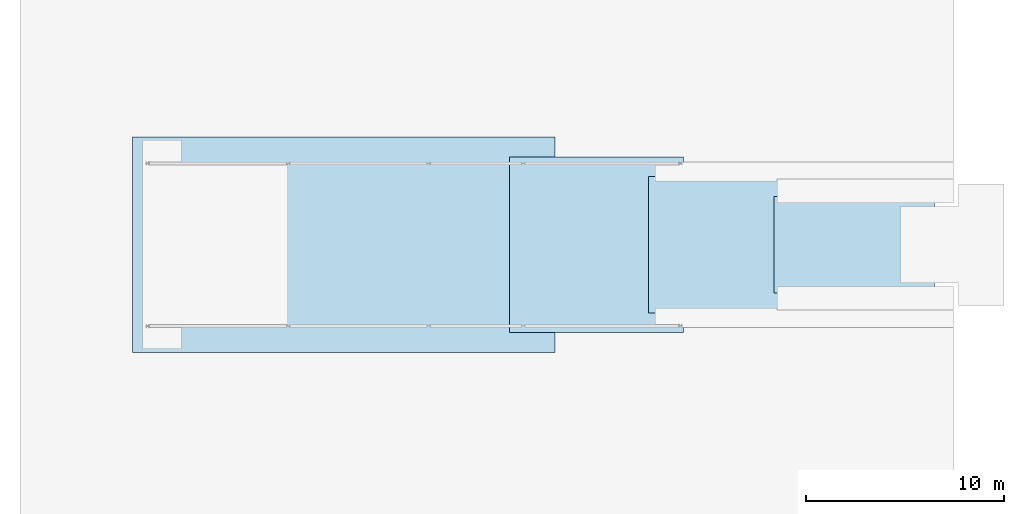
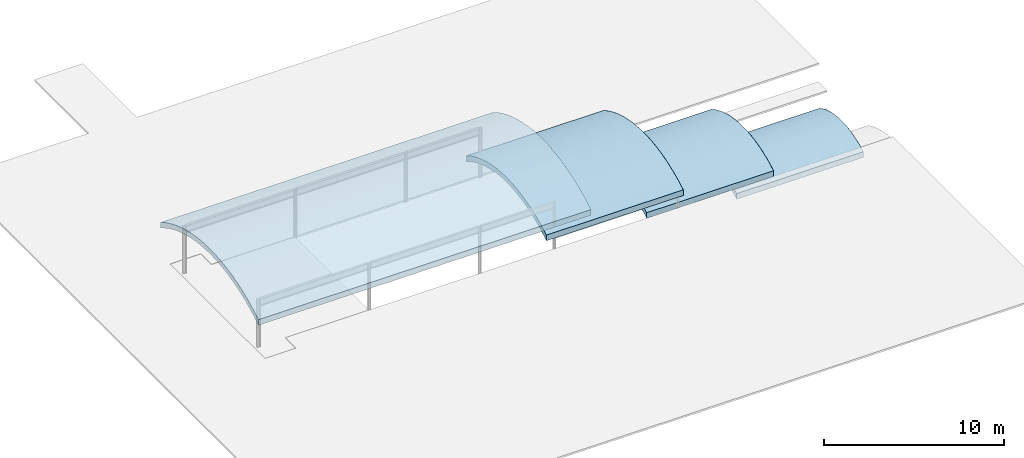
# One storey, part 4 of 5: 4 roofs.
"""IFC2X3 building model written with IfcOpenShell, lengths in metres."""

import ifcopenshell
import ifcopenshell.guid

model = None  # the IFC model being written
_history = None  # IfcOwnerHistory: only IFC2X3 demands one
_inside = {}  # id of a spatial element -> (the spatial element, [elements in it])
_under = {}  # id of a project, library or spatial element -> (it, [spatial elements below it])
_declared = {}  # id of a project -> (the project, [libraries it declares])
_typed = {}  # id of a type object -> (the type object, [elements of that type])
_made_of = {}  # id of a material, layer set ... -> (it, [elements and type objects made of it])


def new_model(schema):
    """Start an empty IFC model of exactly this schema.

    Asked for "IFC4X3", IfcOpenShell would pick the latest addendum, in which some entities
    have other attributes; the version numbers below select the first issue.
    IFC2X3 requires an IfcOwnerHistory on every rooted entity: one is made here for all.
    """
    global model, _history
    if schema == "IFC4X3":
        model = ifcopenshell.file(schema_version=(4, 3, 0, 0))
    else:
        model = ifcopenshell.file(schema=schema)
    _inside.clear()
    _under.clear()
    _declared.clear()
    _typed.clear()
    _made_of.clear()
    _history = None
    if model.schema == "IFC2X3":
        org = make("IfcOrganization", Name="unknown")
        user = make(
            "IfcPersonAndOrganization",
            ThePerson=make("IfcPerson", FamilyName="unknown"),
            TheOrganization=org,
        )
        app = make(
            "IfcApplication",
            ApplicationDeveloper=org,
            Version="unknown",
            ApplicationFullName="unknown",
            ApplicationIdentifier="unknown",
        )
        _history = make(
            "IfcOwnerHistory",
            OwningUser=user,
            OwningApplication=app,
            ChangeAction="ADDED",
            CreationDate=0,
        )
    return model


def make(cls, **values):
    """One entity of the class cls with the attributes given. An attribute that is None is left unset."""
    return model.create_entity(
        cls, **{name: value for name, value in values.items() if value is not None}
    )


def entity(cls, *values):
    """Any entity or typed value of the class cls, its attributes in the order of the schema. None: left unset."""
    e = model.create_entity(cls)
    for i, value in enumerate(values):
        if value is not None:
            e[i] = value
    return e


def rooted(cls, **values):
    """An entity with a GlobalId (a new one), such as an element, a storey or a relation."""
    return make(cls, GlobalId=ifcopenshell.guid.new(), OwnerHistory=_history, **values)


def si_unit(unit_type, name, prefix=None):
    """IfcSIUnit, for example si_unit("LENGTHUNIT", "METRE", prefix="MILLI")."""
    return make("IfcSIUnit", UnitType=unit_type, Prefix=prefix, Name=name)


def converted_unit(unit_type, name, factor, base, dimensions=None, offset=None):
    """IfcConversionBasedUnit, such as the inch: factor (a typed value) times the base unit."""
    return make(
        "IfcConversionBasedUnit"
        if offset is None
        else "IfcConversionBasedUnitWithOffset",
        ConversionOffset=offset,
        Dimensions=None
        if dimensions is None
        else entity("IfcDimensionalExponents", *dimensions),
        UnitType=unit_type,
        Name=name,
        ConversionFactor=make(
            "IfcMeasureWithUnit", ValueComponent=factor, UnitComponent=base
        ),
    )


def assignment(units):
    """IfcUnitAssignment: the units of a project."""
    return None if units is None else make("IfcUnitAssignment", Units=units)


def point(xyz):
    """IfcCartesianPoint."""
    return None if xyz is None else make("IfcCartesianPoint", Coordinates=xyz)


def direction(xyz):
    """IfcDirection."""
    return None if xyz is None else make("IfcDirection", DirectionRatios=xyz)


def frame(location, z_axis=None, x_axis=None):
    """IfcAxis2Placement3D, a coordinate frame: its origin and axes. An axis left out is left unset."""
    return make(
        "IfcAxis2Placement3D",
        Location=point(location),
        Axis=direction(z_axis),
        RefDirection=direction(x_axis),
    )


def origin():
    """The frame at (0, 0, 0) with its axes left unset."""
    return frame((0.0, 0.0, 0.0))


def place(relative_to, where):
    """IfcLocalPlacement: puts the frame where relative to a parent placement (None: the world)."""
    return make(
        "IfcLocalPlacement", PlacementRelTo=relative_to, RelativePlacement=where
    )


def context(
    kind, dimensions, precision=None, world=None, true_north=None, identifier=None
):
    """IfcGeometricRepresentationContext, for example the 3D "Model" context."""
    return make(
        "IfcGeometricRepresentationContext",
        ContextIdentifier=identifier,
        ContextType=kind,
        CoordinateSpaceDimension=dimensions,
        Precision=precision,
        WorldCoordinateSystem=world,
        TrueNorth=true_north,
    )


def project(units=None, contexts=None):
    """IfcProject with its units and contexts."""
    return rooted(
        "IfcProject",
        Name="project",
        RepresentationContexts=contexts,
        UnitsInContext=assignment(units),
    )


def spatial(cls, under=None, at=None, **own):
    """A site, building, storey or space (cls), placed at a placement, below another one or the project."""
    s = rooted(cls, ObjectPlacement=at, **own)
    if under is not None:
        _under.setdefault(under.id(), (under, []))[1].append(s)
    return s


def faces_of(points, faces, orient=None, outer=None):
    """IfcFace entities. A face is a list of loops; a loop is a list of indices into points, from 0.

    orient and outer hold one flag for each loop. By default every Orientation is true, the
    first loop of a face is its IfcFaceOuterBound and the others are IfcFaceBound.
    """
    made = []
    for i, loops in enumerate(faces):
        bounds = []
        for j, loop in enumerate(loops):
            is_outer = j == 0 if outer is None else outer[i][j]
            bounds.append(
                make(
                    "IfcFaceOuterBound" if is_outer else "IfcFaceBound",
                    Bound=make("IfcPolyLoop", Polygon=[points[k] for k in loop]),
                    Orientation=True if orient is None else orient[i][j],
                )
            )
        made.append(make("IfcFace", Bounds=bounds))
    return made


def face_set(faces, orient=None, outer=None):
    """The faces of one IfcConnectedFaceSet. surface_model builds it on its shared points."""
    return ("IfcConnectedFaceSet", faces, orient, outer)


def surface_model(cls, points, shells):
    """IfcFaceBasedSurfaceModel or IfcShellBasedSurfaceModel (cls): surfaces that need not close."""
    shared = [point(p) for p in points]
    made = [make(c, CfsFaces=faces_of(shared, fs, o, b)) for c, fs, o, b in shells]
    if cls == "IfcFaceBasedSurfaceModel":
        return make(cls, FbsmFaces=made)
    return make(cls, SbsmBoundary=made)


def shape(context_of_items, identifier, shape_type, items):
    """IfcShapeRepresentation: the items that make up one representation, for example the "Body"."""
    return make(
        "IfcShapeRepresentation",
        ContextOfItems=context_of_items,
        RepresentationIdentifier=identifier,
        RepresentationType=shape_type,
        Items=items,
    )


def material(Name=None, Category=None):
    """IfcMaterial."""
    return make("IfcMaterial", Name=Name, Category=Category)


def layer(
    of_material, thickness, ventilated=None, Name=None, Category=None, Priority=None
):
    """IfcMaterialLayer: one layer of a wall or slab, of a material (None: an air gap)."""
    return make(
        "IfcMaterialLayer",
        Material=of_material,
        LayerThickness=thickness,
        IsVentilated=ventilated,
        Name=Name,
        Category=Category,
        Priority=Priority,
    )


def layer_set(layers, Name=None):
    """IfcMaterialLayerSet."""
    return make("IfcMaterialLayerSet", MaterialLayers=layers, LayerSetName=Name)


def layer_usage(for_layer_set, set_direction, sense, offset, extent=None):
    """IfcMaterialLayerSetUsage: how a layer set lies in its element."""
    return make(
        "IfcMaterialLayerSetUsage",
        ForLayerSet=for_layer_set,
        LayerSetDirection=set_direction,
        DirectionSense=sense,
        OffsetFromReferenceLine=offset,
        ReferenceExtent=extent,
    )


def made_of(thing, what):
    """Note that an element or type object is made of a material, layer set ...; save() writes the relation."""
    if what is not None:
        _made_of.setdefault(what.id(), (what, []))[1].append(thing)
    return thing


def element(
    cls,
    number,
    at=None,
    inside=None,
    cuts=None,
    type_object=None,
    material=None,
    context=None,
    identifier="Body",
    shape_type=None,
    held_by="IfcProductDefinitionShape",
    body=None,
    shapes=None,
    **own,
):
    """One element of the class cls, such as IfcWall. Its Tag is "e" and its number.

    at: its placement. inside: the storey or other place that contains it. cuts: it is an
    opening in that element (IfcRelVoidsElement). A single representation is given by context,
    identifier, shape_type and body (its items); several are given by shapes. held_by: the class
    of the entity that holds the representations. save() writes the other relations.
    """
    e = rooted(cls, Tag="e%d" % number, ObjectPlacement=at, **own)
    if body is not None:
        shapes = [shape(context, identifier, shape_type, body)]
    if shapes is not None:
        e.Representation = make(held_by, Representations=shapes)
    if inside is not None:
        _inside.setdefault(inside.id(), (inside, []))[1].append(e)
    if cuts is not None:
        rooted(
            "IfcRelVoidsElement", RelatingBuildingElement=cuts, RelatedOpeningElement=e
        )
    if type_object is not None:
        _typed.setdefault(type_object.id(), (type_object, []))[1].append(e)
    return made_of(e, material)


def aggregate(whole, parts):
    """IfcRelAggregates: a whole, such as a stair, and the parts it consists of."""
    return rooted("IfcRelAggregates", RelatingObject=whole, RelatedObjects=parts)


def save(model, path):
    """Write the relations noted so far, then the file.

    IfcRelAggregates (storeys below a building ...), IfcRelContainedInSpatialStructure (elements
    in a storey), IfcRelDefinesByType, IfcRelAssociatesMaterial and IfcRelDeclares: one each for
    every whole, place, type object, material and project.
    """
    for whole, parts in _under.values():
        aggregate(whole, parts)
    for where, things in _inside.values():
        rooted(
            "IfcRelContainedInSpatialStructure",
            RelatedElements=things,
            RelatingStructure=where,
        )
    for kind, things in _typed.values():
        rooted("IfcRelDefinesByType", RelatedObjects=things, RelatingType=kind)
    for what, things in _made_of.values():
        rooted("IfcRelAssociatesMaterial", RelatedObjects=things, RelatingMaterial=what)
    for by, libraries in _declared.values():
        rooted("IfcRelDeclares", RelatingContext=by, RelatedDefinitions=libraries)
    model.write(path)


model = new_model("IFC2X3")

# Units and contexts
model_context = context("Model", 3, precision=1e-09, world=origin())
plan_context = context("Plan", 3, precision=1e-09, world=origin())
ifc_project = project(units=[si_unit("LENGTHUNIT", "METRE"), si_unit("AREAUNIT", "SQUARE_METRE"), si_unit("VOLUMEUNIT", "CUBIC_METRE"), converted_unit("PLANEANGLEUNIT", "DEGREE", entity("IfcRatioMeasure", 0.01745329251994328), si_unit("PLANEANGLEUNIT", "RADIAN"), dimensions=[0, 0, 0, 0, 0, 0, 0]), si_unit("TIMEUNIT", "SECOND")], contexts=[model_context, plan_context])

# Site, building, storey
site_placement = place(None, origin())
site = spatial("IfcSite", under=ifc_project, at=site_placement, Name="Default", CompositionType="ELEMENT")
building_placement = place(site_placement, origin())
building = spatial("IfcBuilding", under=site, at=building_placement, CompositionType="ELEMENT")
storey_placement = place(building_placement, frame((0.0, 0.0, 9.25000000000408)))
storey = spatial("IfcBuildingStorey", under=building, at=storey_placement, Name="Roof - Main", CompositionType="ELEMENT", Elevation=9.25000000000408)

# Roofs
ifc_material_1 = material(Name="Roofing - Metal")
ifc_layer_1 = layer(ifc_material_1, 0.006)
ifc_material_2 = material(Name="Metal - Decking")
ifc_layer_2 = layer(ifc_material_2, 0.038)
ifc_material_3 = material(Name="Structure - Steel Bar Joist Layer")
ifc_layer_3 = layer(ifc_material_3, 0.286)
ifc_layer_set = layer_set([ifc_layer_1, ifc_layer_2, ifc_layer_3], Name="Basic Roof:Standing Seam Metal Roof")
ifc_layer_usage = layer_usage(ifc_layer_set, "AXIS3", "NEGATIVE", 0.0)
roof_1_placement = place(storey_placement, frame((-8.965000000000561, 29.24857020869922, -1.990786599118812)))
element("IfcRoof", 1, at=roof_1_placement, inside=storey, material=ifc_layer_usage, Name="Basic Roof:Standing Seam Metal Roof", ObjectType="Basic Roof:Standing Seam Metal Roof", ShapeType="NOTDEFINED", context=model_context, shape_type="SurfaceModel", body=[
    surface_model("IfcFaceBasedSurfaceModel", [(8.150579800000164, 4.881363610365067, 0.3848994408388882), (8.150579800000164, 4.666968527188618, 0.4990496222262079), (8.150579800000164, 4.447247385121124, 0.6025780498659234), (8.150579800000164, 4.222726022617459, 0.6952369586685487), (8.150579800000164, 3.993941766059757, 0.7768045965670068), (8.150579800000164, 3.761442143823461, 0.8470857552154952), (8.150579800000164, 3.525783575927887, 0.9059122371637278), (8.150579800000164, 3.287530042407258, 0.9531432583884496), (8.150579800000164, 3.047251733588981, 0.9886657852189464), (8.150579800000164, 2.805523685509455, 1.012394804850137), (8.150579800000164, 2.56292440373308, 1.024273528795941), (8.150579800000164, 2.320034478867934, 1.024273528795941), (8.150579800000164, 2.077435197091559, 1.012394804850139), (8.150579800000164, 1.835707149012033, 0.9886657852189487), (8.150579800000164, 1.595428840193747, 0.9531432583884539), (8.150579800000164, 1.357175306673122, 0.9059122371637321), (8.150579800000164, 1.121516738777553, 0.8470857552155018), (8.150579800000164, 0.8890171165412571, 0.7768045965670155), (8.150579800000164, 0.660232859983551, 0.6952369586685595), (8.150579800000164, 0.4357114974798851, 0.6025780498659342), (8.150579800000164, 0.2159903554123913, 0.4990496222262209), (8.150579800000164, 0.001595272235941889, 0.3848994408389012), (8.150579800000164, 0.0015952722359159, 0.0015952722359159), (8.150579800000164, 0.2032149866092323, 0.1195023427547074), (8.150579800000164, 0.4105183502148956, 0.2271030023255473), (8.150579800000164, 0.6229789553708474, 0.3241240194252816), (8.150579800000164, 0.8400572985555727, 0.4103190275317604), (8.150579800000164, 1.061202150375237, 0.4854691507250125), (8.150579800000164, 1.28585195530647, 0.5493835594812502), (8.150579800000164, 1.51343625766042, 0.6018999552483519), (8.150579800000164, 1.743377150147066, 0.6428849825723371), (8.150579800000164, 1.975090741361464, 0.6722345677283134), (8.150579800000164, 2.207988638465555, 0.6898741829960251), (8.150579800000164, 2.441479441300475, 0.6957590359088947), (8.150579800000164, 2.674970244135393, 0.6898741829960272), (8.150579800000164, 2.907868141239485, 0.6722345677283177), (8.150579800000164, 3.139581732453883, 0.6428849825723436), (8.150579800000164, 3.369522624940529, 0.6018999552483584), (8.150579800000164, 3.597106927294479, 0.5493835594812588), (8.150579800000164, 3.821756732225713, 0.4854691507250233), (8.150579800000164, 4.042901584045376, 0.4103190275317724), (8.150579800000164, 4.259979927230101, 0.3241240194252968), (8.150579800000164, 4.472440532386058, 0.2271030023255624), (8.150579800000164, 4.679743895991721, 0.1195023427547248), (8.150579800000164, 4.881363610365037, 0.001595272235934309), (0.0, 4.881363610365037, 0.3848994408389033), (0.0, 4.666968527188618, 0.4990496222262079), (0.0, 4.447247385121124, 0.6025780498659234), (0.0, 4.222726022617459, 0.6952369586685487), (0.0, 3.993941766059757, 0.7768045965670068), (0.0, 3.761442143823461, 0.8470857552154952), (0.0, 3.525783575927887, 0.9059122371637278), (0.0, 3.287530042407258, 0.9531432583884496), (0.0, 3.047251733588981, 0.9886657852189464), (0.0, 2.805523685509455, 1.012394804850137), (0.0, 2.56292440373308, 1.024273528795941), (0.0, 2.320034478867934, 1.024273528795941), (0.0, 2.077435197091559, 1.012394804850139), (0.0, 1.835707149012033, 0.9886657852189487), (0.0, 1.595428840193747, 0.9531432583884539), (0.0, 1.357175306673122, 0.9059122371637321), (0.0, 1.121516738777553, 0.8470857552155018), (0.0, 0.8890171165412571, 0.7768045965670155), (0.0, 0.660232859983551, 0.6952369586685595), (0.0, 0.4357114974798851, 0.6025780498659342), (0.0, 0.2159903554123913, 0.4990496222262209), (0.0, 0.0015952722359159, 0.384899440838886), (0.0, 0.0015952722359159, 0.001595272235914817), (0.0, 0.2032149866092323, 0.1195023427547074), (0.0, 0.4105183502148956, 0.2271030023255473), (0.0, 0.6229789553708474, 0.3241240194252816), (0.0, 0.8400572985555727, 0.4103190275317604), (0.0, 1.061202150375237, 0.4854691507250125), (0.0, 1.28585195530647, 0.5493835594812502), (0.0, 1.51343625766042, 0.6018999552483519), (0.0, 1.743377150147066, 0.6428849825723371), (0.0, 1.975090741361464, 0.6722345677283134), (0.0, 2.207988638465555, 0.6898741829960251), (0.0, 2.441479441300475, 0.6957590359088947), (0.0, 2.674970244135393, 0.6898741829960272), (0.0, 2.907868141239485, 0.6722345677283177), (0.0, 3.139581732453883, 0.6428849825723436), (0.0, 3.369522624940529, 0.6018999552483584), (0.0, 3.597106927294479, 0.5493835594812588), (0.0, 3.821756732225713, 0.4854691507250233), (0.0, 4.042901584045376, 0.4103190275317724), (0.0, 4.259979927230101, 0.3241240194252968), (0.0, 4.472440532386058, 0.2271030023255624), (0.0, 4.679743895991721, 0.1195023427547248), (0.0, 4.881363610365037, 0.001595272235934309)], [face_set([[[0, 1, 2, 3, 4, 5, 6, 7, 8, 9, 10, 11, 12, 13, 14, 15, 16, 17, 18, 19, 20, 21, 22, 23, 24, 25, 26, 27, 28, 29, 30, 31, 32, 33, 34, 35, 36, 37, 38, 39, 40, 41, 42, 43, 44]], [[45, 46, 47, 48, 49, 50, 51, 52, 53, 54, 55, 56, 57, 58, 59, 60, 61, 62, 63, 64, 65, 66, 67, 68, 69, 70, 71, 72, 73, 74, 75, 76, 77, 78, 79, 80, 81, 82, 83, 84, 85, 86, 87, 88, 89]], [[45, 47, 2, 0]], [[47, 49, 4, 2]], [[51, 53, 8, 6]], [[49, 51, 6, 4]], [[53, 55, 10, 8]], [[11, 10, 55, 56]], [[56, 58, 13, 11]], [[58, 60, 15, 13]], [[62, 64, 19, 17]], [[60, 62, 17, 15]], [[64, 66, 21, 19]], [[22, 21, 66, 67]], [[68, 67, 22, 23]], [[71, 70, 25, 26]], [[70, 69, 24, 25]], [[69, 68, 23, 24]], [[74, 73, 28, 29]], [[73, 72, 27, 28]], [[77, 76, 31, 32]], [[76, 75, 30, 31]], [[75, 74, 29, 30]], [[72, 71, 26, 27]], [[32, 33, 78, 77]], [[80, 79, 34, 35]], [[83, 82, 37, 38]], [[82, 81, 36, 37]], [[81, 80, 35, 36]], [[86, 85, 40, 41]], [[85, 84, 39, 40]], [[89, 88, 43, 44]], [[88, 87, 42, 43]], [[87, 86, 41, 42]], [[84, 83, 38, 39]], [[33, 34, 79, 78]], [[0, 45, 89, 44]]])]),
])
roof_2_placement = place(storey_placement, frame((-41.42899912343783, 26.24001779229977, 2.638007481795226)))
element("IfcRoof", 2, at=roof_2_placement, inside=storey, material=ifc_layer_usage, Name="Basic Roof:Standing Seam Metal Roof", ObjectType="Basic Roof:Standing Seam Metal Roof", ShapeType="NOTDEFINED", context=model_context, shape_type="SurfaceModel", body=[
    surface_model("IfcFaceBasedSurfaceModel", [(21.3804991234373, 10.89846844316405, 0.3901882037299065), (21.3804991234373, 10.5894102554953, 0.5710029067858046), (21.3804991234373, 10.2743583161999, 0.7411592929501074), (21.3804991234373, 9.95368005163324, 0.900458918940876), (21.3804991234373, 9.627749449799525, 1.048716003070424), (21.3804991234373, 9.296946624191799, 1.185757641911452), (21.3804991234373, 8.961657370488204, 1.311424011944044), (21.3804991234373, 8.622272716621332, 1.425568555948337), (21.3804991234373, 8.279188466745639, 1.528058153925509), (21.3804991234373, 7.93280473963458, 1.618773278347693), (21.3804991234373, 7.583525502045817, 1.697608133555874), (21.3804991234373, 7.231758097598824, 1.764470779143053), (21.3804991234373, 6.877912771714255, 1.819283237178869), (21.3804991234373, 6.52240219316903, 1.861981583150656), (21.3804991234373, 6.16564097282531, 1.892516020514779), (21.3804991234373, 5.808045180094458, 1.9108509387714), (21.3804991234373, 5.450031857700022, 1.916964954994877), (21.3804991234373, 5.092018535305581, 1.910850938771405), (21.3804991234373, 4.73442274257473, 1.892516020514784), (21.3804991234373, 4.377661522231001, 1.86198158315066), (21.3804991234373, 4.022150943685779, 1.819283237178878), (21.3804991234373, 3.668305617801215, 1.764470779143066), (21.3804991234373, 3.316538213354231, 1.697608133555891), (21.3804991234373, 2.967258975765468, 1.618773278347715), (21.3804991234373, 2.620875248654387, 1.528058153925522), (21.3804991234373, 2.277790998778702, 1.425568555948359), (21.3804991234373, 1.938406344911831, 1.311424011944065), (21.3804991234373, 1.603117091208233, 1.185757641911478), (21.3804991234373, 1.272314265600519, 1.048716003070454), (21.3804991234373, 0.9463836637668, 0.9004589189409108), (21.3804991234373, 0.6257053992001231, 0.7411592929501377), (21.3804991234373, 0.310653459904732, 0.5710029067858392), (21.3804991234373, 0.001595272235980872, 0.3901882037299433), (21.3804991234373, 0.0015952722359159, 0.001595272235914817), (21.3804991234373, 0.3082648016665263, 0.1890339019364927), (21.3804991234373, 0.6213752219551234, 0.3655028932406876), (21.3804991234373, 0.9405343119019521, 0.5307811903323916), (21.3804991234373, 1.265342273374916, 0.6846617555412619), (21.3804991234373, 1.595392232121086, 0.8269518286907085), (21.3804991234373, 1.93027074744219, 0.9574731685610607), (21.3804991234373, 2.269558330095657, 1.076062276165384), (21.3804991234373, 2.612829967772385, 1.182570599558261), (21.3804991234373, 2.959655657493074, 1.276864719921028), (21.3804991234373, 3.309600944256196, 1.358826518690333), (21.3804991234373, 3.66222746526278, 1.428353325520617), (21.3804991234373, 4.017093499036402, 1.48535804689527), (21.3804991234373, 4.373754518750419, 1.529769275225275), (21.3804991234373, 4.731763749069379, 1.561531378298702), (21.3804991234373, 5.09067272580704, 1.580604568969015), (21.3804991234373, 5.450031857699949, 1.586964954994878), (21.3804991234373, 5.809390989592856, 1.58060456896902), (21.3804991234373, 6.168299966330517, 1.561531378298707), (21.3804991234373, 6.526309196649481, 1.529769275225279), (21.3804991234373, 6.882970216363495, 1.485358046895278), (21.3804991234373, 7.237836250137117, 1.42835332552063), (21.3804991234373, 7.590462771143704, 1.358826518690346), (21.3804991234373, 7.940408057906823, 1.276864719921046), (21.3804991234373, 8.287233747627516, 1.182570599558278), (21.3804991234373, 8.63050538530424, 1.076062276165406), (21.3804991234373, 8.969792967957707, 0.9574731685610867), (21.3804991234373, 9.304671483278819, 0.8269518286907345), (21.3804991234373, 9.634721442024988, 0.6846617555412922), (21.3804991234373, 9.95952940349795, 0.5307811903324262), (21.3804991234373, 10.27868849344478, 0.3655028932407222), (21.3804991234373, 10.59179891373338, 0.1890339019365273), (21.3804991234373, 10.89846844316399, 0.0015952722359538), (0.0, 10.89846844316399, 0.3901882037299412), (0.0, 10.5894102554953, 0.5710029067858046), (0.0, 10.2743583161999, 0.7411592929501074), (0.0, 9.95368005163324, 0.900458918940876), (0.0, 9.627749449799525, 1.048716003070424), (0.0, 9.296946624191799, 1.185757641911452), (0.0, 8.961657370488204, 1.311424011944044), (0.0, 8.622272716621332, 1.425568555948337), (0.0, 8.279188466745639, 1.528058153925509), (0.0, 7.93280473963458, 1.618773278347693), (0.0, 7.583525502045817, 1.697608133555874), (0.0, 7.231758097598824, 1.764470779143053), (0.0, 6.877912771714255, 1.819283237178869), (0.0, 6.52240219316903, 1.861981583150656), (0.0, 6.16564097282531, 1.892516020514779), (0.0, 5.808045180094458, 1.9108509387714), (0.0, 5.450031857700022, 1.916964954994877), (0.0, 5.092018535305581, 1.910850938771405), (0.0, 4.73442274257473, 1.892516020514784), (0.0, 4.377661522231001, 1.86198158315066), (0.0, 4.022150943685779, 1.819283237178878), (0.0, 3.668305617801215, 1.764470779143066), (0.0, 3.316538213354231, 1.697608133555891), (0.0, 2.967258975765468, 1.618773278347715), (0.0, 2.620875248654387, 1.528058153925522), (0.0, 2.277790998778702, 1.425568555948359), (0.0, 1.938406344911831, 1.311424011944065), (0.0, 1.603117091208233, 1.185757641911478), (0.0, 1.272314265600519, 1.048716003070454), (0.0, 0.9463836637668, 0.9004589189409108), (0.0, 0.6257053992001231, 0.7411592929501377), (0.0, 0.310653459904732, 0.5710029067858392), (0.0, 0.0015952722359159, 0.3901882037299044), (0.0, 0.0015952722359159, 0.001595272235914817), (0.0, 0.3082648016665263, 0.1890339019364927), (0.0, 0.6213752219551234, 0.3655028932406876), (0.0, 0.9405343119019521, 0.5307811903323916), (0.0, 1.265342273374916, 0.6846617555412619), (0.0, 1.595392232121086, 0.8269518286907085), (0.0, 1.93027074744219, 0.9574731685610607), (0.0, 2.269558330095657, 1.076062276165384), (0.0, 2.612829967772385, 1.182570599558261), (0.0, 2.959655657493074, 1.276864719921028), (0.0, 3.309600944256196, 1.358826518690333), (0.0, 3.66222746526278, 1.428353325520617), (0.0, 4.017093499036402, 1.48535804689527), (0.0, 4.373754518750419, 1.529769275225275), (0.0, 4.731763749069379, 1.561531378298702), (0.0, 5.09067272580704, 1.580604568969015), (0.0, 5.450031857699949, 1.586964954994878), (0.0, 5.809390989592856, 1.58060456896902), (0.0, 6.168299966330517, 1.561531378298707), (0.0, 6.526309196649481, 1.529769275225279), (0.0, 6.882970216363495, 1.485358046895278), (0.0, 7.237836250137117, 1.42835332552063), (0.0, 7.590462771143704, 1.358826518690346), (0.0, 7.940408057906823, 1.276864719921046), (0.0, 8.287233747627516, 1.182570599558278), (0.0, 8.63050538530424, 1.076062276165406), (0.0, 8.969792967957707, 0.9574731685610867), (0.0, 9.304671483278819, 0.8269518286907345), (0.0, 9.634721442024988, 0.6846617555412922), (0.0, 9.95952940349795, 0.5307811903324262), (0.0, 10.27868849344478, 0.3655028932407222), (0.0, 10.59179891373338, 0.1890339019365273), (0.0, 10.89846844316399, 0.0015952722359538)], [face_set([[[0, 1, 2, 3, 4, 5, 6, 7, 8, 9, 10, 11, 12, 13, 14, 15, 16, 17, 18, 19, 20, 21, 22, 23, 24, 25, 26, 27, 28, 29, 30, 31, 32, 33, 34, 35, 36, 37, 38, 39, 40, 41, 42, 43, 44, 45, 46, 47, 48, 49, 50, 51, 52, 53, 54, 55, 56, 57, 58, 59, 60, 61, 62, 63, 64, 65]], [[66, 67, 68, 69, 70, 71, 72, 73, 74, 75, 76, 77, 78, 79, 80, 81, 82, 83, 84, 85, 86, 87, 88, 89, 90, 91, 92, 93, 94, 95, 96, 97, 98, 99, 100, 101, 102, 103, 104, 105, 106, 107, 108, 109, 110, 111, 112, 113, 114, 115, 116, 117, 118, 119, 120, 121, 122, 123, 124, 125, 126, 127, 128, 129, 130, 131]], [[68, 70, 4, 2]], [[66, 68, 2, 0]], [[70, 72, 6, 4]], [[76, 78, 12, 10]], [[74, 76, 10, 8]], [[72, 74, 8, 6]], [[78, 80, 14, 12]], [[16, 14, 80, 82]], [[86, 88, 22, 20]], [[84, 86, 20, 18]], [[88, 90, 24, 22]], [[94, 96, 30, 28]], [[92, 94, 28, 26]], [[90, 92, 26, 24]], [[96, 98, 32, 30]], [[82, 84, 18, 16]], [[33, 32, 98, 99]], [[100, 99, 33, 34]], [[102, 101, 35, 36]], [[101, 100, 34, 35]], [[104, 103, 37, 38]], [[106, 105, 39, 40]], [[105, 104, 38, 39]], [[103, 102, 36, 37]], [[108, 107, 41, 42]], [[110, 109, 43, 44]], [[109, 108, 42, 43]], [[112, 111, 45, 46]], [[114, 113, 47, 48]], [[113, 112, 46, 47]], [[111, 110, 44, 45]], [[107, 106, 40, 41]], [[48, 49, 115, 114]], [[117, 116, 50, 51]], [[119, 118, 52, 53]], [[118, 117, 51, 52]], [[121, 120, 54, 55]], [[123, 122, 56, 57]], [[122, 121, 55, 56]], [[120, 119, 53, 54]], [[125, 124, 58, 59]], [[127, 126, 60, 61]], [[126, 125, 59, 60]], [[129, 128, 62, 63]], [[131, 130, 64, 65]], [[130, 129, 63, 64]], [[128, 127, 61, 62]], [[124, 123, 57, 58]], [[49, 50, 116, 115]], [[0, 66, 131, 65]]])]),
])
roof_3_placement = place(storey_placement, frame((-15.32449120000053, 28.24412973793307, -0.4487173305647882)))
element("IfcRoof", 3, at=roof_3_placement, inside=storey, material=ifc_layer_usage, Name="Basic Roof:Standing Seam Metal Roof", ObjectType="Basic Roof:Standing Seam Metal Roof", ShapeType="NOTDEFINED", context=model_context, shape_type="SurfaceModel", body=[
    surface_model("IfcFaceBasedSurfaceModel", [(8.157291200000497, 6.890244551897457, 0.3876464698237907), (8.157291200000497, 6.638038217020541, 0.5285488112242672), (8.157291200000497, 6.380078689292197, 0.6586195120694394), (8.157291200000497, 6.116830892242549, 0.7776241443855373), (8.157291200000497, 5.848769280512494, 0.8853482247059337), (8.157291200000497, 5.576376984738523, 0.9815976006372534), (8.157291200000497, 5.300144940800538, 1.06619880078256), (8.157291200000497, 5.020571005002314, 1.138999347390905), (8.157291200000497, 4.738159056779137, 1.199868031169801), (8.157291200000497, 4.453418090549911, 1.248695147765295), (8.157291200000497, 4.166861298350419, 1.285392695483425), (8.157291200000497, 3.879005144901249, 1.309894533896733), (8.157291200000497, 3.590368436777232, 1.322156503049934), (8.157291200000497, 3.301471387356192, 1.322156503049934), (8.157291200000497, 3.012834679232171, 1.309894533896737), (8.157291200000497, 2.724978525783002, 1.28539269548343), (8.157291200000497, 2.438421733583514, 1.248695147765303), (8.157291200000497, 2.153680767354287, 1.199868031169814), (8.157291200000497, 1.871268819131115, 1.138999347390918), (8.157291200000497, 1.591694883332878, 1.066198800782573), (8.157291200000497, 1.315462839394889, 0.9815976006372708), (8.157291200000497, 1.043070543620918, 0.885348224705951), (8.157291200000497, 0.7750089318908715, 0.777624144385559), (8.157291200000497, 0.5117611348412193, 0.6586195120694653), (8.157291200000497, 0.2538016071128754, 0.5285488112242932), (8.157291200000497, 0.001595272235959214, 0.3876464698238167), (8.157291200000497, 0.0015952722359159, 0.001595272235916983), (8.157291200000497, 0.2412903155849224, 0.1450539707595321), (8.157291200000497, 0.4869499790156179, 0.2780405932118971), (8.157291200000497, 0.7381170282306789, 0.4003076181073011), (8.157291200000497, 0.9943239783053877, 0.5116274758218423), (8.157291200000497, 1.255093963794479, 0.6117929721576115), (8.157291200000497, 1.51994162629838, 0.7006176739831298), (8.157291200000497, 1.788374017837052, 0.7779362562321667), (8.157291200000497, 2.05989151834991, 0.8436048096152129), (8.157291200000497, 2.333988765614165, 0.8975011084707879), (8.157291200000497, 2.610155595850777, 0.9395248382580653), (8.157291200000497, 2.887877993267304, 0.9695977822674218), (8.157291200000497, 3.166639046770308, 0.9876639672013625), (8.157291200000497, 3.445919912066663, 0.9936897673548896), (8.157291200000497, 3.725200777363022, 0.9876639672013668), (8.157291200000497, 4.003961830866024, 0.9695977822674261), (8.157291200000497, 4.281684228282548, 0.9395248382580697), (8.157291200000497, 4.55785105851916, 0.8975011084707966), (8.157291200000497, 4.831948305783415, 0.8436048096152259), (8.157291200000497, 5.103465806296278, 0.7779362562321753), (8.157291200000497, 5.37189819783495, 0.7006176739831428), (8.157291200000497, 5.63674586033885, 0.6117929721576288), (8.157291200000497, 5.897515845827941, 0.5116274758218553), (8.157291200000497, 6.153722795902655, 0.4003076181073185), (8.157291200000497, 6.404889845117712, 0.2780405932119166), (8.157291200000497, 6.650549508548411, 0.1450539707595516), (8.157291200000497, 6.890244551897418, 0.00159527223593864), (0.0, 6.890244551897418, 0.3876464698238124), (0.0, 6.638038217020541, 0.5285488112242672), (0.0, 6.380078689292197, 0.6586195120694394), (0.0, 6.116830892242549, 0.7776241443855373), (0.0, 5.848769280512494, 0.8853482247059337), (0.0, 5.576376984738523, 0.9815976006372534), (0.0, 5.300144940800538, 1.06619880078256), (0.0, 5.020571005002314, 1.138999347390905), (0.0, 4.738159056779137, 1.199868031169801), (0.0, 4.453418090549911, 1.248695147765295), (0.0, 4.166861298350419, 1.285392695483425), (0.0, 3.879005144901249, 1.309894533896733), (0.0, 3.590368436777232, 1.322156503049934), (0.0, 3.301471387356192, 1.322156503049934), (0.0, 3.012834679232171, 1.309894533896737), (0.0, 2.724978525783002, 1.28539269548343), (0.0, 2.438421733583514, 1.248695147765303), (0.0, 2.153680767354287, 1.199868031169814), (0.0, 1.871268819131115, 1.138999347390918), (0.0, 1.591694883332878, 1.066198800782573), (0.0, 1.315462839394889, 0.9815976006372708), (0.0, 1.043070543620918, 0.885348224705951), (0.0, 0.7750089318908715, 0.777624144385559), (0.0, 0.5117611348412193, 0.6586195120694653), (0.0, 0.2538016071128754, 0.5285488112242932), (0.0, 0.0015952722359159, 0.3876464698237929), (0.0, 0.0015952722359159, 0.001595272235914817), (0.0, 0.2412903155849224, 0.1450539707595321), (0.0, 0.4869499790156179, 0.2780405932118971), (0.0, 0.7381170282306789, 0.4003076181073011), (0.0, 0.9943239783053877, 0.5116274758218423), (0.0, 1.255093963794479, 0.6117929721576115), (0.0, 1.51994162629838, 0.7006176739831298), (0.0, 1.788374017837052, 0.7779362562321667), (0.0, 2.05989151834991, 0.8436048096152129), (0.0, 2.333988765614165, 0.8975011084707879), (0.0, 2.610155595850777, 0.9395248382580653), (0.0, 2.887877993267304, 0.9695977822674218), (0.0, 3.166639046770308, 0.9876639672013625), (0.0, 3.445919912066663, 0.9936897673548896), (0.0, 3.725200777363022, 0.9876639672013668), (0.0, 4.003961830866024, 0.9695977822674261), (0.0, 4.281684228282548, 0.9395248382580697), (0.0, 4.55785105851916, 0.8975011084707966), (0.0, 4.831948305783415, 0.8436048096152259), (0.0, 5.103465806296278, 0.7779362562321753), (0.0, 5.37189819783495, 0.7006176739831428), (0.0, 5.63674586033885, 0.6117929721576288), (0.0, 5.897515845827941, 0.5116274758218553), (0.0, 6.153722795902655, 0.4003076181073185), (0.0, 6.404889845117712, 0.2780405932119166), (0.0, 6.650549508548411, 0.1450539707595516), (0.0, 6.890244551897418, 0.00159527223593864)], [face_set([[[0, 1, 2, 3, 4, 5, 6, 7, 8, 9, 10, 11, 12, 13, 14, 15, 16, 17, 18, 19, 20, 21, 22, 23, 24, 25, 26, 27, 28, 29, 30, 31, 32, 33, 34, 35, 36, 37, 38, 39, 40, 41, 42, 43, 44, 45, 46, 47, 48, 49, 50, 51, 52]], [[53, 54, 55, 56, 57, 58, 59, 60, 61, 62, 63, 64, 65, 66, 67, 68, 69, 70, 71, 72, 73, 74, 75, 76, 77, 78, 79, 80, 81, 82, 83, 84, 85, 86, 87, 88, 89, 90, 91, 92, 93, 94, 95, 96, 97, 98, 99, 100, 101, 102, 103, 104, 105]], [[53, 55, 2, 0]], [[55, 57, 4, 2]], [[61, 63, 10, 8]], [[59, 61, 8, 6]], [[57, 59, 6, 4]], [[63, 65, 12, 10]], [[13, 12, 65, 66]], [[66, 68, 15, 13]], [[68, 70, 17, 15]], [[74, 76, 23, 21]], [[72, 74, 21, 19]], [[70, 72, 19, 17]], [[76, 78, 25, 23]], [[26, 25, 78, 79]], [[81, 80, 27, 28]], [[80, 79, 26, 27]], [[84, 83, 30, 31]], [[83, 82, 29, 30]], [[82, 81, 28, 29]], [[87, 86, 33, 34]], [[86, 85, 32, 33]], [[89, 88, 35, 36]], [[91, 90, 37, 38]], [[90, 89, 36, 37]], [[88, 87, 34, 35]], [[85, 84, 31, 32]], [[38, 39, 92, 91]], [[95, 94, 41, 42]], [[94, 93, 40, 41]], [[98, 97, 44, 45]], [[97, 96, 43, 44]], [[96, 95, 42, 43]], [[101, 100, 47, 48]], [[100, 99, 46, 47]], [[103, 102, 49, 50]], [[105, 104, 51, 52]], [[104, 103, 50, 51]], [[102, 101, 48, 49]], [[99, 98, 45, 46]], [[39, 40, 93, 92]], [[0, 53, 105, 52]]])]),
])
roof_4_placement = place(storey_placement, frame((-22.34850000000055, 27.24161972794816, 1.094392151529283)))
element("IfcRoof", 4, at=roof_4_placement, inside=storey, material=ifc_layer_usage, Name="Basic Roof:Standing Seam Metal Roof", ObjectType="Basic Roof:Standing Seam Metal Roof", ShapeType="NOTDEFINED", context=model_context, shape_type="SurfaceModel", body=[
    surface_model("IfcFaceBasedSurfaceModel", [(8.8, 8.895264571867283, 0.3891952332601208), (8.8, 8.616001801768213, 0.5497052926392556), (8.8, 8.330953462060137, 0.6997006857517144), (8.8, 8.040515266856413, 0.8389731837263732), (8.8, 7.745090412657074, 0.9673294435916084), (8.8, 7.445089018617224, 1.084591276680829), (8.8, 7.140927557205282, 1.190595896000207), (8.8, 6.833028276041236, 1.285196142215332), (8.8, 6.521818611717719, 1.368260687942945), (8.8, 6.207730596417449, 1.439674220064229), (8.8, 5.891200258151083, 1.499337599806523), (8.8, 5.572667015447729, 1.547168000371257), (8.8, 5.252573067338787, 1.583099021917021), (8.8, 4.931362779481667, 1.60708078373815), (8.8, 4.609482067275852, 1.619079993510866), (8.8, 4.287377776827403, 1.619079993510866), (8.8, 3.965497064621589, 1.60708078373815), (8.8, 3.644286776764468, 1.58309902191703), (8.8, 3.324192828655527, 1.547168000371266), (8.8, 3.005659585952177, 1.499337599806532), (8.8, 2.689129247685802, 1.439674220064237), (8.8, 2.375041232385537, 1.368260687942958), (8.8, 2.063831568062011, 1.285196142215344), (8.8, 1.755932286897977, 1.190595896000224), (8.8, 1.451770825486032, 1.084591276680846), (8.8, 1.151769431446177, 0.9673294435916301), (8.8, 0.8563445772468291, 0.8389731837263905), (8.8, 0.5659063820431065, 0.6997006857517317), (8.8, 0.2808580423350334, 0.5497052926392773), (8.8, 0.001595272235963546, 0.389195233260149), (8.8, 0.0015952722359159, 0.001595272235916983), (8.8, 0.2783101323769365, 0.1692807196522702), (8.8, 0.5613393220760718, 0.3260735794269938), (8.8, 0.8502542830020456, 0.4717364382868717), (8.8, 1.144617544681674, 0.6060487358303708), (8.8, 1.44398338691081, 0.7288070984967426), (8.8, 1.747898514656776, 0.839825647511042), (8.8, 2.055902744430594, 0.9389362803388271), (8.8, 2.367529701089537, 1.025988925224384), (8.8, 2.682307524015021, 1.100851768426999), (8.8, 2.999759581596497, 1.163411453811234), (8.8, 3.319405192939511, 1.213573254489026), (8.8, 3.64076035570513, 1.251261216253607), (8.8, 3.963338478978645, 1.276418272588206), (8.8, 4.286651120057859, 1.28900633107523), (8.8, 4.610208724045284, 1.28900633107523), (8.8, 4.933521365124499, 1.27641827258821), (8.8, 5.256099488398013, 1.251261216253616), (8.8, 5.577454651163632, 1.213573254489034), (8.8, 5.897100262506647, 1.163411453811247), (8.8, 6.214552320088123, 1.100851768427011), (8.8, 6.529330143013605, 1.025988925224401), (8.8, 6.840957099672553, 0.9389362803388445), (8.8, 7.148961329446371, 0.8398256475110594), (8.8, 7.452876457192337, 0.7288070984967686), (8.8, 7.752242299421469, 0.6060487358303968), (8.8, 8.046605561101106, 0.4717364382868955), (8.8, 8.335520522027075, 0.3260735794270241), (8.8, 8.618549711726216, 0.1692807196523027), (8.8, 8.895264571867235, 0.001595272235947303), (0.0, 8.895264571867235, 0.389195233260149), (0.0, 8.616001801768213, 0.5497052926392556), (0.0, 8.330953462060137, 0.6997006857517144), (0.0, 8.040515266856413, 0.8389731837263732), (0.0, 7.745090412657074, 0.9673294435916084), (0.0, 7.445089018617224, 1.084591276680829), (0.0, 7.140927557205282, 1.190595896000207), (0.0, 6.833028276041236, 1.285196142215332), (0.0, 6.521818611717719, 1.368260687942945), (0.0, 6.207730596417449, 1.439674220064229), (0.0, 5.891200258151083, 1.499337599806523), (0.0, 5.572667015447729, 1.547168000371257), (0.0, 5.252573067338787, 1.583099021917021), (0.0, 4.931362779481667, 1.60708078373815), (0.0, 4.609482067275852, 1.619079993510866), (0.0, 4.287377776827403, 1.619079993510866), (0.0, 3.965497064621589, 1.60708078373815), (0.0, 3.644286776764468, 1.58309902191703), (0.0, 3.324192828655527, 1.547168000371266), (0.0, 3.005659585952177, 1.499337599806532), (0.0, 2.689129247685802, 1.439674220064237), (0.0, 2.375041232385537, 1.368260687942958), (0.0, 2.063831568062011, 1.285196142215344), (0.0, 1.755932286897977, 1.190595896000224), (0.0, 1.451770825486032, 1.084591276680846), (0.0, 1.151769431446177, 0.9673294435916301), (0.0, 0.8563445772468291, 0.8389731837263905), (0.0, 0.5659063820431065, 0.6997006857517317), (0.0, 0.2808580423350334, 0.5497052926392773), (0.0, 0.0015952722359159, 0.3891952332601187), (0.0, 0.0015952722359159, 0.001595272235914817), (0.0, 0.2783101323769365, 0.1692807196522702), (0.0, 0.5613393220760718, 0.3260735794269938), (0.0, 0.8502542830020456, 0.4717364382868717), (0.0, 1.144617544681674, 0.6060487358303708), (0.0, 1.44398338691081, 0.7288070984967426), (0.0, 1.747898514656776, 0.839825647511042), (0.0, 2.055902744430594, 0.9389362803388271), (0.0, 2.367529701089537, 1.025988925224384), (0.0, 2.682307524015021, 1.100851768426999), (0.0, 2.999759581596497, 1.163411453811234), (0.0, 3.319405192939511, 1.213573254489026), (0.0, 3.64076035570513, 1.251261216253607), (0.0, 3.963338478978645, 1.276418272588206), (0.0, 4.286651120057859, 1.28900633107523), (0.0, 4.610208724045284, 1.28900633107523), (0.0, 4.933521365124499, 1.27641827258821), (0.0, 5.256099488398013, 1.251261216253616), (0.0, 5.577454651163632, 1.213573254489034), (0.0, 5.897100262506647, 1.163411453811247), (0.0, 6.214552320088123, 1.100851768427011), (0.0, 6.529330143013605, 1.025988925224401), (0.0, 6.840957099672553, 0.9389362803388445), (0.0, 7.148961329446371, 0.8398256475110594), (0.0, 7.452876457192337, 0.7288070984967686), (0.0, 7.752242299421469, 0.6060487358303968), (0.0, 8.046605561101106, 0.4717364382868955), (0.0, 8.335520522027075, 0.3260735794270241), (0.0, 8.618549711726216, 0.1692807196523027), (0.0, 8.895264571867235, 0.001595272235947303)], [face_set([[[0, 1, 2, 3, 4, 5, 6, 7, 8, 9, 10, 11, 12, 13, 14, 15, 16, 17, 18, 19, 20, 21, 22, 23, 24, 25, 26, 27, 28, 29, 30, 31, 32, 33, 34, 35, 36, 37, 38, 39, 40, 41, 42, 43, 44, 45, 46, 47, 48, 49, 50, 51, 52, 53, 54, 55, 56, 57, 58, 59]], [[60, 61, 62, 63, 64, 65, 66, 67, 68, 69, 70, 71, 72, 73, 74, 75, 76, 77, 78, 79, 80, 81, 82, 83, 84, 85, 86, 87, 88, 89, 90, 91, 92, 93, 94, 95, 96, 97, 98, 99, 100, 101, 102, 103, 104, 105, 106, 107, 108, 109, 110, 111, 112, 113, 114, 115, 116, 117, 118, 119]], [[62, 64, 4, 2]], [[60, 62, 2, 0]], [[64, 66, 6, 4]], [[70, 72, 12, 10]], [[68, 70, 10, 8]], [[66, 68, 8, 6]], [[72, 74, 14, 12]], [[15, 14, 74, 75]], [[77, 79, 19, 17]], [[75, 77, 17, 15]], [[79, 81, 21, 19]], [[85, 87, 27, 25]], [[83, 85, 25, 23]], [[81, 83, 23, 21]], [[87, 89, 29, 27]], [[30, 29, 89, 90]], [[92, 91, 31, 32]], [[91, 90, 30, 31]], [[94, 93, 33, 34]], [[96, 95, 35, 36]], [[95, 94, 34, 35]], [[93, 92, 32, 33]], [[98, 97, 37, 38]], [[100, 99, 39, 40]], [[99, 98, 38, 39]], [[102, 101, 41, 42]], [[104, 103, 43, 44]], [[103, 102, 42, 43]], [[101, 100, 40, 41]], [[97, 96, 36, 37]], [[105, 104, 44, 45]], [[107, 106, 46, 47]], [[106, 105, 45, 46]], [[109, 108, 48, 49]], [[111, 110, 50, 51]], [[110, 109, 49, 50]], [[108, 107, 47, 48]], [[113, 112, 52, 53]], [[115, 114, 54, 55]], [[114, 113, 53, 54]], [[117, 116, 56, 57]], [[119, 118, 58, 59]], [[118, 117, 57, 58]], [[116, 115, 55, 56]], [[112, 111, 51, 52]], [[0, 60, 119, 59]]])]),
])

save(model, "model.ifc")
